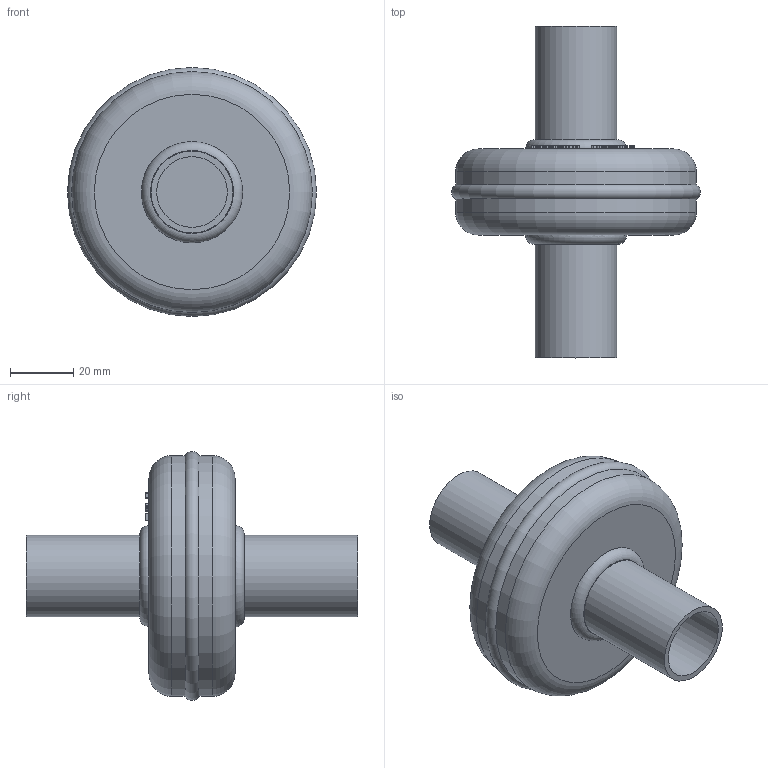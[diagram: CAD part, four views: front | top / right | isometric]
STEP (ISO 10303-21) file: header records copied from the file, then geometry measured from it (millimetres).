
FILE_DESCRIPTION(/* description */ (''),/* implementation_level */ '2;1');
FILE_NAME(/* name */ 'P:\F\F-22L\F-22L.stp',/* time_stamp */ '2017-10-05T08:18:26+02:00',/* author */ ('neufeld'),/* organization */ (''),/* preprocessor_version */ 'ST-DEVELOPER v16.1',/* originating_system */ 'Autodesk Inventor 2016',/* authorisation */ '');
FILE_SCHEMA (('AUTOMOTIVE_DESIGN { 1 0 10303 214 3 1 1 }'));
Length unit declared in the file: millimetre
Products named in the file (2): F-22L; F-22L_1
Assembly tree (1 placements, depth 2):
  F-22L_1
    F-22L
Bounding box: 79.03 x 105.31 x 79.03 mm (x, y, z)
Volume: 149619.3 mm3; surface area: 23536 mm2
Topology: 1 solids, 1 shells, 746 faces, 2056 edges, 1370 vertices
Faces by surface type: plane 513, bspline 221, cylinder 7, torus 5
Full cylindrical faces by diameter (mm): 22.4 x2, 26 x2, 26.3 x1, 76.4 x2
Entity records: 25023 total; most frequent: CARTESIAN_POINT 7541, ORIENTED_EDGE 4080, DIRECTION 2670, EDGE_CURVE 2040, LINE 1580, VECTOR 1580, VERTEX_POINT 1365, EDGE_LOOP 815
